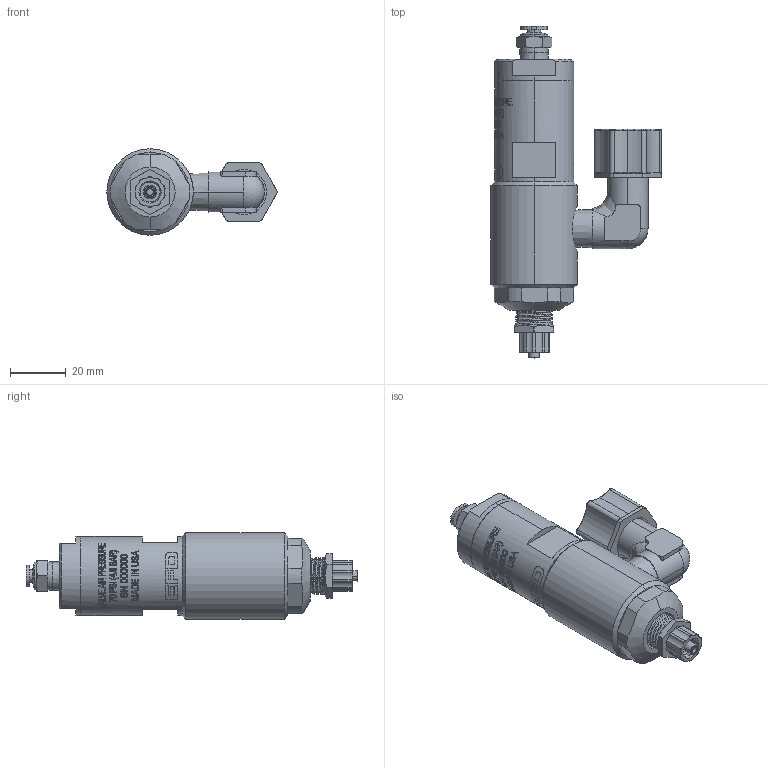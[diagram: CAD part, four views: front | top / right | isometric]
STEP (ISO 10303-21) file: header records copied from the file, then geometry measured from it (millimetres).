
FILE_DESCRIPTION (( 'STEP AP214' ), '1' );
FILE_NAME ('NORDSONEFD-7021015 725HF-A HIGH FLOW PISTON VALVE-ACETAL.STEP', '2019-01-29T09:27:57', ( '' ), ( '' ), 'SwSTEP 2.0', 'SolidWorks 2019', '' );
FILE_SCHEMA (( 'AUTOMOTIVE_DESIGN' ));
Length unit declared in the file: inch
Products named in the file (1): NORDSONEFD-7021015 725HF-A HIGH FLOW PISTON VALVE-ACETAL
Bounding box: 61.29 x 119.44 x 31.11 mm (x, y, z)
Volume: 73611 mm3; surface area: 16558.2 mm2
Topology: 1 solids, 1 shells, 1020 faces, 2660 edges, 1726 vertices
Faces by surface type: plane 422, bspline 319, cylinder 184, cone 58, torus 36, sphere 1
Entity records: 48712 total; most frequent: CARTESIAN_POINT 22942, ORIENTED_EDGE 5292, DIRECTION 3875, EDGE_CURVE 2646, VERTEX_POINT 1725, AXIS2_PLACEMENT_3D 1383, EDGE_LOOP 1117, VECTOR 1109
